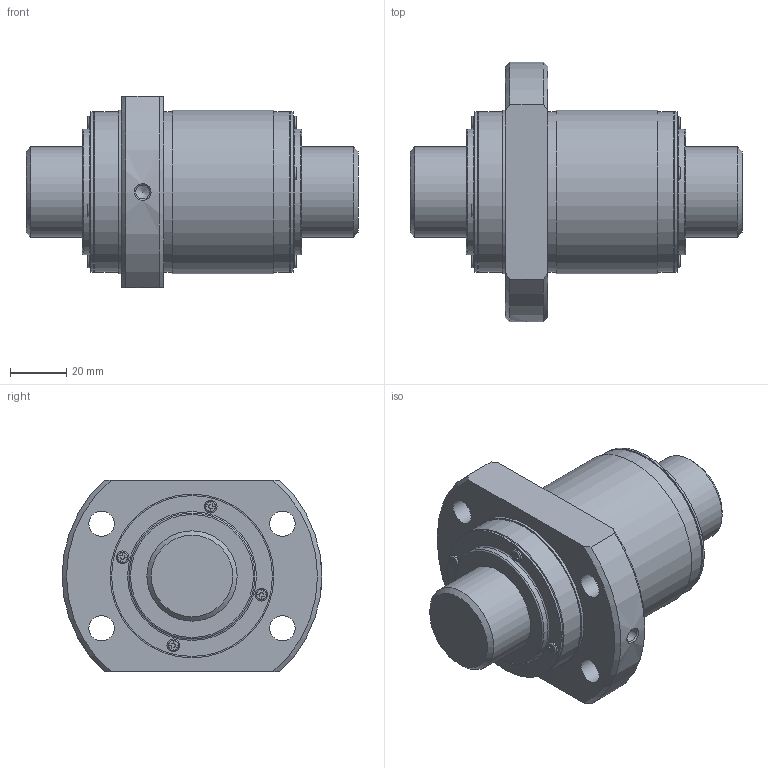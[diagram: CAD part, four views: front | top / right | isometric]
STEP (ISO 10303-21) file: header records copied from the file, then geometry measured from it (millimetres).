
FILE_DESCRIPTION(/* description */ ('STEP AP203'),/* implementation_level */ '2;1');
FILE_NAME(/* name */ 'BLK3232-3.6ZZ+117.6LC7T_000',/* time_stamp */ '2025-06-11T06:29:34+02:00',/* author */ ('License CC BY-ND 4.0'),/* organization */ ('CADENAS'),/* preprocessor_version */ 'ST-DEVELOPER v19.3',/* originating_system */ 'PARTsolutions',/* authorisation */ ' ');
FILE_SCHEMA (('CONFIG_CONTROL_DESIGN'));
Length unit declared in the file: millimetre
Products named in the file (3): BLK3232-3.6ZZ+117.6LC7T_000; BLK3232-3.60ZZ0 Shaft; BLK3232-3.6ZZ Nut
Assembly tree (2 placements, depth 2):
  BLK3232-3.6ZZ+117.6LC7T_000
    BLK3232-3.60ZZ0 Shaft
    BLK3232-3.6ZZ Nut
Bounding box: 117.6 x 92 x 68 mm (x, y, z)
Volume: 269171.7 mm3; surface area: 47427.3 mm2
Topology: 2 solids, 2 shells, 207 faces, 517 edges, 339 vertices
Faces by surface type: plane 127, cylinder 58, torus 12, cone 10
Full cylindrical faces by diameter (mm): 4.54 x8, 4.917 x1, 9 x4, 32 x2, 44.6 x2, 57 x5, 58 x2
Entity records: 6038 total; most frequent: CARTESIAN_POINT 1055, DIRECTION 1020, ORIENTED_EDGE 946, EDGE_CURVE 473, AXIS2_PLACEMENT_3D 346, VERTEX_POINT 338, LINE 328, VECTOR 328
